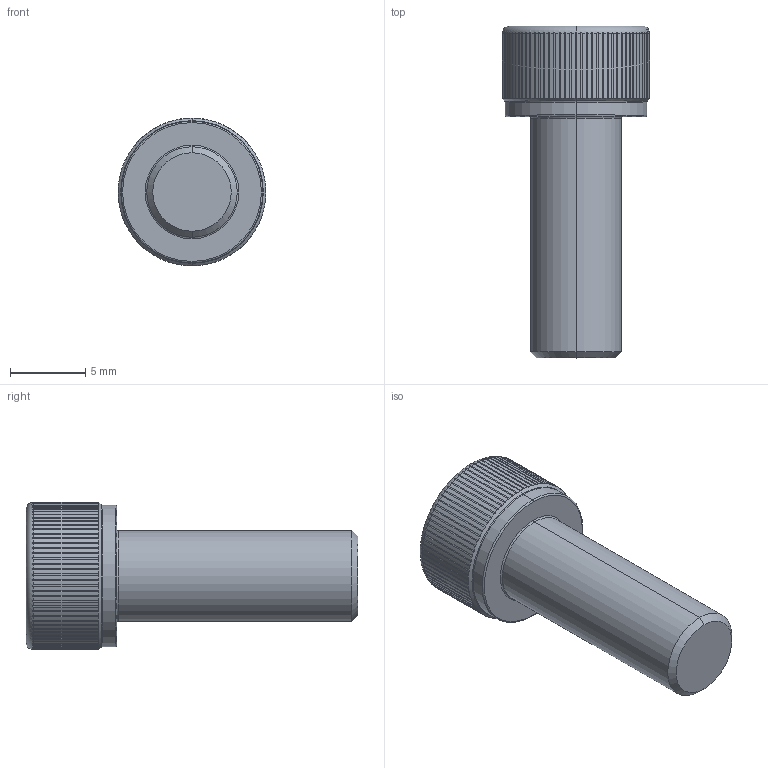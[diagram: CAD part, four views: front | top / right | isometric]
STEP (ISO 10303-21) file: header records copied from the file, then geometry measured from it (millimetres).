
FILE_DESCRIPTION (( 'STEP AP203' ), '1' );
FILE_NAME ('LGDT-304-M6x16.STEP', '2026-08-10T04:29:22', ( '' ), ( '' ), 'SwSTEP 2.0', 'SolidWorks 2020', '' );
FILE_SCHEMA (( 'CONFIG_CONTROL_DESIGN' ));
Length unit declared in the file: millimetre
Products named in the file (1): LGDT-304-M6x16
Bounding box: 9.8 x 22 x 9.8 mm (x, y, z)
Volume: 819.1 mm3; surface area: 679.4 mm2
Topology: 1 solids, 1 shells, 216 faces, 612 edges, 400 vertices
Faces by surface type: cylinder 187, cone 11, plane 10, torus 8
Entity records: 8880 total; most frequent: CARTESIAN_POINT 3409, ORIENTED_EDGE 1224, DIRECTION 1048, EDGE_CURVE 612, AXIS2_PLACEMENT_3D 422, VERTEX_POINT 400, EDGE_LOOP 218, FACE_OUTER_BOUND 216
